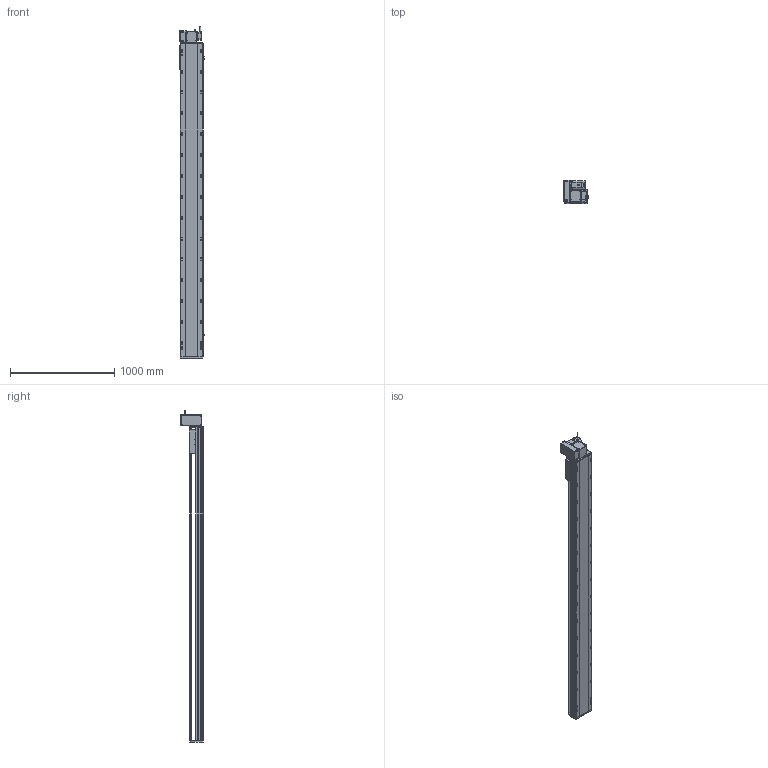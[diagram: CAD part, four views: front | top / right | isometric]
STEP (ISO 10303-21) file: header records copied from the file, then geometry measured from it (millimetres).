
FILE_DESCRIPTION (( 'STEP AP214' ), '1' );
FILE_NAME ('RTB22S-XX-2650-LW-M75-C4.STEP', '2025-12-12T07:03:08', ( '' ), ( '' ), 'SwSTEP 2.0', 'SolidWorks 2018', '' );
FILE_SCHEMA (( 'AUTOMOTIVE_DESIGN' ));
Length unit declared in the file: millimetre
Products named in the file (14): RTB22S-GY-014--々湍釱^RTB22S-LW-々湍釱蚾饜_RTB22S-XX-XX-LW-M75-C4; 750W萇儂^RTB22S-XX-XX-LW-M75-C4; RTB22S-L-004賑釱^RTB22S-XX-XX-LW-M75-C4; RTB22S-GY-008-M75--萇儂啣^RTB22S-LW-々湍釱蚾饜_RTB22S-XX-XX-LW-M75-C4; RTH22-GY-013外置感应片^RTB22S-XX-XX-LW-M75-C4; RTB22S-XX-2650-LW-M75-C4; RTB22S-GY-001耜裔^RTB22S-XX-XX-LW-M75-C4; RTB22S-L-011菁釱^RTB22S-XX-XX-LW-M75-C4; OMRON EE-SX672 传感器^RTB22S-XX-XX-LW-M75-C4; RTB22S-GY-018P^RTB22S-LW-々湍釱蚾饜_RTB22S-XX-XX-LW-M75-C4; RTB22S-LW-々湍釱蚾饜^RTB22S-XX-XX-LW-M75-C4; RTB22S-GY-017P^RTB22S-LW-々湍釱蚾饜_RTB22S-XX-XX-LW-M75-C4; RTB22S-GY-007奻裔^RTB22S-XX-XX-LW-M75-C4; RTB22S-GY-005P^RTB22S-LW-々湍釱蚾饜_RTB22S-XX-XX-LW-M75-C4
Assembly tree (16 placements, depth 3):
  RTB22S-XX-2650-LW-M75-C4
    RTB22S-L-011菁釱^RTB22S-XX-XX-LW-M75-C4
    RTB22S-GY-001耜裔^RTB22S-XX-XX-LW-M75-C4
    750W萇儂^RTB22S-XX-XX-LW-M75-C4
    RTB22S-GY-007奻裔^RTB22S-XX-XX-LW-M75-C4
    RTB22S-L-004賑釱^RTB22S-XX-XX-LW-M75-C4
    RTH22-GY-013外置感应片^RTB22S-XX-XX-LW-M75-C4
    OMRON EE-SX672 传感器^RTB22S-XX-XX-LW-M75-C4  x3
    RTB22S-LW-々湍釱蚾饜^RTB22S-XX-XX-LW-M75-C4
      RTB22S-GY-014--々湍釱^RTB22S-LW-々湍釱蚾饜_RTB22S-XX-XX-LW-M75-C4
      RTB22S-GY-017P^RTB22S-LW-々湍釱蚾饜_RTB22S-XX-XX-LW-M75-C4  x2
      RTB22S-GY-005P^RTB22S-LW-々湍釱蚾饜_RTB22S-XX-XX-LW-M75-C4
      RTB22S-GY-008-M75--萇儂啣^RTB22S-LW-々湍釱蚾饜_RTB22S-XX-XX-LW-M75-C4
      RTB22S-GY-018P^RTB22S-LW-々湍釱蚾饜_RTB22S-XX-XX-LW-M75-C4
Bounding box: 238.5 x 215.5 x 3182.2 mm (x, y, z)
Volume: 40507555.6 mm3; surface area: 4139840.2 mm2
Topology: 15 solids, 15 shells, 2127 faces, 5786 edges, 3692 vertices
Faces by surface type: plane 931, cylinder 718, bspline 296, cone 170, sphere 8, torus 4
Entity records: 58032 total; most frequent: CARTESIAN_POINT 16356, ORIENTED_EDGE 8296, DIRECTION 8122, EDGE_CURVE 4148, AXIS2_PLACEMENT_3D 2918, VERTEX_POINT 2696, VECTOR 2286, LINE 2286
